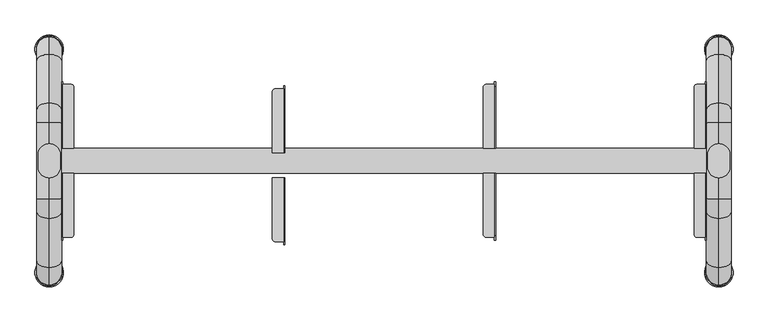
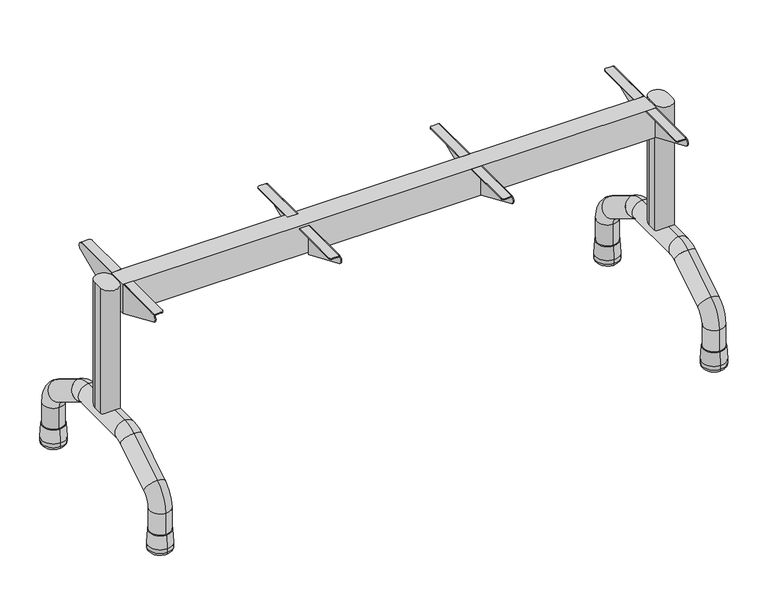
"""IFC4 building model written with IfcOpenShell, lengths in millimetres: furniture geometry, Banco para refeitório : Banco para refeitório 120x30cm cód 40469.5."""

from ifc_helpers import new_model, si_unit, point, frame, frame_2d, origin, place, context, project, spatial, polyline, circle_curve, ellipse_curve, trimmed, segment, composite_curve, outline, extrude, source, transform, mapped, element, save
from ifc_brep_helpers import plane_surface, cylinder_surface, revolved_surface, advanced_brep


def furniture_0498835a(model_context):
    return source(origin(), model_context, "Body", "SolidModel", [
        extrude(outline(composite_curve([segment(trimmed(circle_curve(frame_2d((-540.0, -9.5)), 18.0), [point((-522.0, -9.5))], [point((-558.0, -9.5))], False, "CARTESIAN"), True, "CONTINUOUS"), segment(polyline([(-558.0, -9.5), (-558.0, 9.5)]), True, "CONTINUOUS"), segment(trimmed(circle_curve(frame_2d((-540.0, 9.5)), 18.0), [point((-558.0, 9.5))], [point((-522.0, 9.5))], False, "CARTESIAN"), True, "CONTINUOUS"), segment(polyline([(-522.0, 9.5), (-522.0, -9.5)]), True, "CONTINUOUS")], self_intersect=False)), frame((0.0, 0.0, 175.0), z_axis=(0.0, 0.0, 1.0), x_axis=(1.0, 0.0, 0.0)), (0.0, 0.0, 1.0), 267.0),
        advanced_brep(
        [(-540.0, -160.0, 43.1183008), (-540.0, -200.0, 43.1183008), (-540.0, -160.0, 86.179057), (-540.0, -200.0, 86.179057), (-540.0, -171.6393713, 137.1589568), (-540.0, -150.5464571, 103.1723569), (-540.0, -71.882227, 151.9932999), (-540.0, -92.9751412, 185.9798998), (-540.0, -61.3357699, 195.0), (-540.0, -61.3357699, 155.0), (-540.0, 61.3357699, 155.0), (-540.0, 61.3357699, 195.0), (-540.0, 160.0, 43.1183008), (-540.0, 200.0, 43.1183008), (-540.0, 92.9751412, 185.9798998), (-540.0, 71.882227, 151.9932999), (-540.0, 150.5464571, 103.1723569), (-540.0, 171.6393713, 137.1589568), (-540.0, 200.0, 86.179057), (-540.0, 160.0, 86.179057)],
        [
            (0, 1, circle_curve(frame((-540.0, -180.0, 43.1183008), z_axis=(0.0, 0.0, -1.0), x_axis=(0.0, -1.0, 0.0)), 20.0)),
            (1, 0, circle_curve(frame((-540.0, -180.0, 43.1183008), z_axis=(0.0, 0.0, -1.0), x_axis=(0.0, -1.0, 0.0)), 20.0)),
            (0, 2),
            (2, 3, circle_curve(frame((-540.0, -180.0, 86.179057), z_axis=(0.0, 0.0, -1.0), x_axis=(0.0, -1.0, 0.0)), 20.0)),
            (3, 1),
            (3, 2, circle_curve(frame((-540.0, -180.0, 86.179057), z_axis=(0.0, 0.0, -1.0), x_axis=(0.0, -1.0, 0.0)), 20.0)),
            (4, 5, circle_curve(frame((-540.0, -161.0929142, 120.1656569), z_axis=(0.0, 0.8496649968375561, 0.5273228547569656), x_axis=(0.0, -0.5273228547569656, 0.8496649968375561)), 20.0)),
            (5, 6),
            (6, 7, circle_curve(frame((-540.0, -82.4286841, 168.9865999), z_axis=(0.0, -0.8496649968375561, -0.5273228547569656), x_axis=(0.0, -0.5273228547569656, 0.8496649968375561)), 20.0)),
            (7, 4),
            (5, 4, circle_curve(frame((-540.0, -161.0929142, 120.1656569), z_axis=(0.0, 0.8496649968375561, 0.5273228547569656), x_axis=(0.0, -0.5273228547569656, 0.8496649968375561)), 20.0)),
            (7, 6, circle_curve(frame((-540.0, -82.4286841, 168.9865999), z_axis=(0.0, -0.8496649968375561, -0.5273228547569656), x_axis=(0.0, -0.5273228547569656, 0.8496649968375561)), 20.0)),
            (8, 9, circle_curve(frame((-540.0, -61.3357699, 175.0), z_axis=(0.0, 1.0, 0.0), x_axis=(0.0, 0.0, 1.0)), 20.0)),
            (9, 10),
            (10, 11, circle_curve(frame((-540.0, 61.3357699, 175.0), z_axis=(0.0, -1.0, 0.0), x_axis=(0.0, 0.0, 1.0)), 20.0)),
            (11, 8),
            (9, 8, circle_curve(frame((-540.0, -61.3357699, 175.0), z_axis=(0.0, 1.0, 0.0), x_axis=(0.0, 0.0, 1.0)), 20.0)),
            (11, 10, circle_curve(frame((-540.0, 61.3357699, 175.0), z_axis=(0.0, -1.0, 0.0), x_axis=(0.0, 0.0, 1.0)), 20.0)),
            (12, 13, circle_curve(frame((-540.0, 180.0, 43.1183008), z_axis=(0.0, 0.0, -1.0), x_axis=(0.0, 1.0, 0.0)), 20.0)),
            (13, 12, circle_curve(frame((-540.0, 180.0, 43.1183008), z_axis=(0.0, 0.0, -1.0), x_axis=(0.0, 1.0, 0.0)), 20.0)),
            (4, 3, circle_curve(frame((-540.0, -140.0, 86.179057), z_axis=(1.0, 0.0, 0.0), x_axis=(0.0, -1.0, 0.0)), 60.0)),
            (2, 5, circle_curve(frame((-540.0, -140.0, 86.179057), z_axis=(-1.0, 0.0, 0.0), x_axis=(0.0, -1.0, 0.0)), 20.0)),
            (8, 7, circle_curve(frame((-540.0, -61.3357699, 135.0), z_axis=(1.0, 0.0, 0.0), x_axis=(0.0, -0.5273228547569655, 0.8496649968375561)), 60.0)),
            (6, 9, circle_curve(frame((-540.0, -61.3357699, 135.0), z_axis=(-1.0, 0.0, 0.0), x_axis=(0.0, -0.5273228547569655, 0.8496649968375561)), 20.0)),
            (14, 11, circle_curve(frame((-540.0, 61.3357699, 135.0), z_axis=(1.0, 0.0, 0.0), x_axis=(0.0, 0.0, 1.0)), 60.0)),
            (10, 15, circle_curve(frame((-540.0, 61.3357699, 135.0), z_axis=(-1.0, 0.0, 0.0), x_axis=(0.0, 0.0, 1.0)), 20.0)),
            (15, 14, circle_curve(frame((-540.0, 82.4286841, 168.9865999), z_axis=(0.0, -0.8496649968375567, 0.5273228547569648), x_axis=(0.0, 0.5273228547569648, 0.8496649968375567)), 20.0)),
            (14, 15, circle_curve(frame((-540.0, 82.4286841, 168.9865999), z_axis=(0.0, -0.8496649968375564, 0.5273228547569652), x_axis=(0.0, 0.5273228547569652, 0.8496649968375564)), 20.0)),
            (15, 16),
            (16, 17, circle_curve(frame((-540.0, 161.0929142, 120.1656569), z_axis=(0.0, -0.849664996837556, 0.5273228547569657), x_axis=(0.0, 0.5273228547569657, 0.849664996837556)), 20.0)),
            (17, 14),
            (17, 16, circle_curve(frame((-540.0, 161.0929142, 120.1656569), z_axis=(0.0, -0.849664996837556, 0.5273228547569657), x_axis=(0.0, 0.5273228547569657, 0.849664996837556)), 20.0)),
            (18, 17, circle_curve(frame((-540.0, 140.0, 86.179057), z_axis=(1.0, 0.0, 0.0), x_axis=(0.0, 0.5273228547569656, 0.849664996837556)), 60.0)),
            (16, 19, circle_curve(frame((-540.0, 140.0, 86.179057), z_axis=(-1.0, 0.0, 0.0), x_axis=(0.0, 0.5273228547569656, 0.849664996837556)), 20.0)),
            (19, 18, circle_curve(frame((-540.0, 180.0, 86.179057), z_axis=(0.0, 0.0, 1.0), x_axis=(0.0, 1.0, 0.0)), 20.0)),
            (18, 19, circle_curve(frame((-540.0, 180.0, 86.179057), z_axis=(0.0, 0.0, 1.0), x_axis=(0.0, 1.0, 0.0)), 20.0)),
            (19, 12),
            (13, 18),
        ],
        [
            plane_surface(frame((-1230.0, -180.0, 43.1183008), z_axis=(0.0, 0.0, -1.0), x_axis=(1.0, 0.0, 0.0))),
            cylinder_surface(frame((-540.0, -180.0, 43.1183008), z_axis=(0.0, 0.0, -1.0), x_axis=(0.0, -1.0, 0.0)), 20.0),
            cylinder_surface(frame((-540.0, -161.0929142, 120.1656569), z_axis=(0.0, -0.8496649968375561, -0.5273228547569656), x_axis=(0.0, -0.5273228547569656, 0.8496649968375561)), 20.0),
            cylinder_surface(frame((-540.0, -61.3357699, 175.0), z_axis=(0.0, -1.0, 0.0), x_axis=(0.0, 0.0, 1.0)), 20.0),
            plane_surface(frame((-1230.0, 180.0, 43.1183008), z_axis=(0.0, 0.0, -1.0), x_axis=(1.0, 0.0, 0.0))),
            revolved_surface(trimmed(ellipse_curve(frame((-540.0, -180.0, 86.179057), z_axis=(0.0, 0.0, -1.0), x_axis=(0.0, -1.0, 0.0)), 20.0, 20.0), [point((-540.0, -160.0, 86.179057))], [point((-540.0, -200.0, 86.179057))], True, "CARTESIAN"), (-1230.0, -140.0, 86.179057), (-1.0, 0.0, 0.0)),
            revolved_surface(trimmed(ellipse_curve(frame((-540.0, -180.0, 86.179057), z_axis=(0.0, 0.0, -1.0), x_axis=(0.0, -1.0, 0.0)), 20.0, 20.0), [point((-540.0, -200.0, 86.179057))], [point((-540.0, -160.0, 86.179057))], True, "CARTESIAN"), (-1230.0, -140.0, 86.179057), (-1.0, 0.0, 0.0)),
            revolved_surface(trimmed(ellipse_curve(frame((-540.0, -82.4286841, 168.9865999), z_axis=(0.0, -0.8496649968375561, -0.5273228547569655), x_axis=(0.0, -0.5273228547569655, 0.8496649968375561)), 20.0, 20.0), [point((-540.0, -71.882227, 151.9932999))], [point((-540.0, -92.9751412, 185.9798998))], True, "CARTESIAN"), (-1230.0, -61.3357699, 135.0), (-1.0, 0.0, 0.0)),
            revolved_surface(trimmed(ellipse_curve(frame((-540.0, -82.4286841, 168.9865999), z_axis=(0.0, -0.8496649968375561, -0.5273228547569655), x_axis=(0.0, -0.5273228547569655, 0.8496649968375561)), 20.0, 20.0), [point((-540.0, -92.9751412, 185.9798998))], [point((-540.0, -71.882227, 151.9932999))], True, "CARTESIAN"), (-1230.0, -61.3357699, 135.0), (-1.0, 0.0, 0.0)),
            revolved_surface(trimmed(ellipse_curve(frame((-540.0, 61.3357699, 175.0), z_axis=(0.0, -1.0, 0.0), x_axis=(0.0, 0.0, 1.0)), 20.0, 20.0), [point((-540.0, 61.3357699, 155.0))], [point((-540.0, 61.3357699, 195.0))], True, "CARTESIAN"), (-1230.0, 61.3357699, 135.0), (-1.0, 0.0, 0.0)),
            revolved_surface(trimmed(ellipse_curve(frame((-540.0, 61.3357699, 175.0), z_axis=(0.0, -1.0, 0.0), x_axis=(0.0, 0.0, 1.0)), 20.0, 20.0), [point((-540.0, 61.3357699, 195.0))], [point((-540.0, 61.3357699, 155.0))], True, "CARTESIAN"), (-1230.0, 61.3357699, 135.0), (-1.0, 0.0, 0.0)),
            cylinder_surface(frame((-540.0, 82.4286841, 168.9865999), z_axis=(0.0, -0.849664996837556, 0.5273228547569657), x_axis=(0.0, 0.5273228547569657, 0.849664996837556)), 20.0),
            revolved_surface(trimmed(ellipse_curve(frame((-540.0, 161.0929142, 120.1656569), z_axis=(0.0, -0.8496649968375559, 0.5273228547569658), x_axis=(0.0, 0.5273228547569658, 0.8496649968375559)), 20.0, 20.0), [point((-540.0, 150.5464571, 103.1723569))], [point((-540.0, 171.6393713, 137.1589568))], True, "CARTESIAN"), (-1230.0, 140.0, 86.179057), (-1.0, 0.0, 0.0)),
            revolved_surface(trimmed(ellipse_curve(frame((-540.0, 161.0929142, 120.1656569), z_axis=(0.0, -0.8496649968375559, 0.5273228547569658), x_axis=(0.0, 0.5273228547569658, 0.8496649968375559)), 20.0, 20.0), [point((-540.0, 171.6393713, 137.1589568))], [point((-540.0, 150.5464571, 103.1723569))], True, "CARTESIAN"), (-1230.0, 140.0, 86.179057), (-1.0, 0.0, 0.0)),
            cylinder_surface(frame((-540.0, 180.0, 86.179057), z_axis=(0.0, 0.0, 1.0), x_axis=(0.0, 1.0, 0.0)), 20.0),
        ],
        [
            (0, [[1, 2]]),
            (1, [[-1, 3, 4, 5]]),
            (1, [[-2, -5, 6, -3]]),
            (2, [[7, 8, 9, 10]]),
            (2, [[11, -10, 12, -8]]),
            (3, [[13, 14, 15, 16]]),
            (3, [[17, -16, 18, -14]]),
            (4, [[19, 20]]),
            (5, [[21, -4, 22, -7]]),
            (6, [[-22, -6, -21, -11]]),
            (7, [[23, -9, 24, -13]]),
            (8, [[-24, -12, -23, -17]]),
            (9, [[25, -15, 26, 27]]),
            (10, [[-26, -18, -25, 28]]),
            (11, [[-27, 29, 30, 31]]),
            (11, [[-28, -31, 32, -29]]),
            (12, [[33, -30, 34, 35]]),
            (13, [[-34, -32, -33, 36]]),
            (14, [[-35, 37, -20, 38]]),
            (14, [[-36, -38, -19, -37]]),
        ],
    ),
        extrude(outline(composite_curve([segment(trimmed(circle_curve(frame_2d((540.0, -9.5)), 18.0), [point((558.0, -9.5))], [point((522.0, -9.5))], False, "CARTESIAN"), True, "CONTINUOUS"), segment(polyline([(522.0, -9.5), (522.0, 9.5)]), True, "CONTINUOUS"), segment(trimmed(circle_curve(frame_2d((540.0, 9.5)), 18.0), [point((522.0, 9.5))], [point((558.0, 9.5))], False, "CARTESIAN"), True, "CONTINUOUS"), segment(polyline([(558.0, 9.5), (558.0, -9.5)]), True, "CONTINUOUS")], self_intersect=False)), frame((0.0, 0.0, 175.0), z_axis=(0.0, 0.0, 1.0), x_axis=(1.0, 0.0, 0.0)), (0.0, 0.0, 1.0), 267.0),
        advanced_brep(
        [(540.0, -160.0, 43.1183008), (540.0, -200.0, 43.1183008), (540.0, -160.0, 86.179057), (540.0, -200.0, 86.179057), (540.0, -171.6393713, 137.1589568), (540.0, -150.5464571, 103.1723569), (540.0, -71.882227, 151.9932999), (540.0, -92.9751412, 185.9798998), (540.0, -61.3357699, 195.0), (540.0, -61.3357699, 155.0), (540.0, 61.3357699, 155.0), (540.0, 61.3357699, 195.0), (540.0, 160.0, 43.1183008), (540.0, 200.0, 43.1183008), (540.0, 92.9751412, 185.9798998), (540.0, 71.882227, 151.9932999), (540.0, 150.5464571, 103.1723569), (540.0, 171.6393713, 137.1589568), (540.0, 200.0, 86.179057), (540.0, 160.0, 86.179057)],
        [
            (0, 1, circle_curve(frame((540.0, -180.0, 43.1183008), z_axis=(0.0, 0.0, -1.0), x_axis=(0.0, -1.0, 0.0)), 20.0)),
            (1, 0, circle_curve(frame((540.0, -180.0, 43.1183008), z_axis=(0.0, 0.0, -1.0), x_axis=(0.0, -1.0, 0.0)), 20.0)),
            (0, 2),
            (2, 3, circle_curve(frame((540.0, -180.0, 86.179057), z_axis=(0.0, 0.0, -1.0), x_axis=(0.0, -1.0, 0.0)), 20.0)),
            (3, 1),
            (3, 2, circle_curve(frame((540.0, -180.0, 86.179057), z_axis=(0.0, 0.0, -1.0), x_axis=(0.0, -1.0, 0.0)), 20.0)),
            (4, 5, circle_curve(frame((540.0, -161.0929142, 120.1656569), z_axis=(0.0, 0.8496649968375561, 0.5273228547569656), x_axis=(0.0, -0.5273228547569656, 0.8496649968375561)), 20.0)),
            (5, 6),
            (6, 7, circle_curve(frame((540.0, -82.4286841, 168.9865999), z_axis=(0.0, -0.8496649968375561, -0.5273228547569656), x_axis=(0.0, -0.5273228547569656, 0.8496649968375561)), 20.0)),
            (7, 4),
            (5, 4, circle_curve(frame((540.0, -161.0929142, 120.1656569), z_axis=(0.0, 0.8496649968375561, 0.5273228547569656), x_axis=(0.0, -0.5273228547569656, 0.8496649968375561)), 20.0)),
            (7, 6, circle_curve(frame((540.0, -82.4286841, 168.9865999), z_axis=(0.0, -0.8496649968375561, -0.5273228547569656), x_axis=(0.0, -0.5273228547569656, 0.8496649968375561)), 20.0)),
            (8, 9, circle_curve(frame((540.0, -61.3357699, 175.0), z_axis=(0.0, 1.0, 0.0), x_axis=(0.0, 0.0, 1.0)), 20.0)),
            (9, 10),
            (10, 11, circle_curve(frame((540.0, 61.3357699, 175.0), z_axis=(0.0, -1.0, 0.0), x_axis=(0.0, 0.0, 1.0)), 20.0)),
            (11, 8),
            (9, 8, circle_curve(frame((540.0, -61.3357699, 175.0), z_axis=(0.0, 1.0, 0.0), x_axis=(0.0, 0.0, 1.0)), 20.0)),
            (11, 10, circle_curve(frame((540.0, 61.3357699, 175.0), z_axis=(0.0, -1.0, 0.0), x_axis=(0.0, 0.0, 1.0)), 20.0)),
            (12, 13, circle_curve(frame((540.0, 180.0, 43.1183008), z_axis=(0.0, 0.0, -1.0), x_axis=(0.0, 1.0, 0.0)), 20.0)),
            (13, 12, circle_curve(frame((540.0, 180.0, 43.1183008), z_axis=(0.0, 0.0, -1.0), x_axis=(0.0, 1.0, 0.0)), 20.0)),
            (4, 3, circle_curve(frame((540.0, -140.0, 86.179057), z_axis=(1.0, 0.0, 0.0), x_axis=(0.0, -1.0, 0.0)), 60.0)),
            (2, 5, circle_curve(frame((540.0, -140.0, 86.179057), z_axis=(-1.0, 0.0, 0.0), x_axis=(0.0, -1.0, 0.0)), 20.0)),
            (8, 7, circle_curve(frame((540.0, -61.3357699, 135.0), z_axis=(1.0, 0.0, 0.0), x_axis=(0.0, -0.5273228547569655, 0.8496649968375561)), 60.0)),
            (6, 9, circle_curve(frame((540.0, -61.3357699, 135.0), z_axis=(-1.0, 0.0, 0.0), x_axis=(0.0, -0.5273228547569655, 0.8496649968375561)), 20.0)),
            (14, 11, circle_curve(frame((540.0, 61.3357699, 135.0), z_axis=(1.0, 0.0, 0.0), x_axis=(0.0, 0.0, 1.0)), 60.0)),
            (10, 15, circle_curve(frame((540.0, 61.3357699, 135.0), z_axis=(-1.0, 0.0, 0.0), x_axis=(0.0, 0.0, 1.0)), 20.0)),
            (15, 14, circle_curve(frame((540.0, 82.4286841, 168.9865999), z_axis=(0.0, -0.8496649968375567, 0.5273228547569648), x_axis=(0.0, 0.5273228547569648, 0.8496649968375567)), 20.0)),
            (14, 15, circle_curve(frame((540.0, 82.4286841, 168.9865999), z_axis=(0.0, -0.8496649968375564, 0.5273228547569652), x_axis=(0.0, 0.5273228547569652, 0.8496649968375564)), 20.0)),
            (15, 16),
            (16, 17, circle_curve(frame((540.0, 161.0929142, 120.1656569), z_axis=(0.0, -0.849664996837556, 0.5273228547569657), x_axis=(0.0, 0.5273228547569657, 0.849664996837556)), 20.0)),
            (17, 14),
            (17, 16, circle_curve(frame((540.0, 161.0929142, 120.1656569), z_axis=(0.0, -0.849664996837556, 0.5273228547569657), x_axis=(0.0, 0.5273228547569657, 0.849664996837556)), 20.0)),
            (18, 17, circle_curve(frame((540.0, 140.0, 86.179057), z_axis=(1.0, 0.0, 0.0), x_axis=(0.0, 0.5273228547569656, 0.849664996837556)), 60.0)),
            (16, 19, circle_curve(frame((540.0, 140.0, 86.179057), z_axis=(-1.0, 0.0, 0.0), x_axis=(0.0, 0.5273228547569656, 0.849664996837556)), 20.0)),
            (19, 18, circle_curve(frame((540.0, 180.0, 86.179057), z_axis=(0.0, 0.0, 1.0), x_axis=(0.0, 1.0, 0.0)), 20.0)),
            (18, 19, circle_curve(frame((540.0, 180.0, 86.179057), z_axis=(0.0, 0.0, 1.0), x_axis=(0.0, 1.0, 0.0)), 20.0)),
            (19, 12),
            (13, 18),
        ],
        [
            plane_surface(frame((-150.0, -180.0, 43.1183008), z_axis=(0.0, 0.0, -1.0), x_axis=(1.0, 0.0, 0.0))),
            cylinder_surface(frame((540.0, -180.0, 43.1183008), z_axis=(0.0, 0.0, -1.0), x_axis=(0.0, -1.0, 0.0)), 20.0),
            cylinder_surface(frame((540.0, -161.0929142, 120.1656569), z_axis=(0.0, -0.8496649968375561, -0.5273228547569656), x_axis=(0.0, -0.5273228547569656, 0.8496649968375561)), 20.0),
            cylinder_surface(frame((540.0, -61.3357699, 175.0), z_axis=(0.0, -1.0, 0.0), x_axis=(0.0, 0.0, 1.0)), 20.0),
            plane_surface(frame((-150.0, 180.0, 43.1183008), z_axis=(0.0, 0.0, -1.0), x_axis=(1.0, 0.0, 0.0))),
            revolved_surface(trimmed(ellipse_curve(frame((540.0, -180.0, 86.179057), z_axis=(0.0, 0.0, -1.0), x_axis=(0.0, -1.0, 0.0)), 20.0, 20.0), [point((540.0, -160.0, 86.179057))], [point((540.0, -200.0, 86.179057))], True, "CARTESIAN"), (-150.0, -140.0, 86.179057), (-1.0, 0.0, 0.0)),
            revolved_surface(trimmed(ellipse_curve(frame((540.0, -180.0, 86.179057), z_axis=(0.0, 0.0, -1.0), x_axis=(0.0, -1.0, 0.0)), 20.0, 20.0), [point((540.0, -200.0, 86.179057))], [point((540.0, -160.0, 86.179057))], True, "CARTESIAN"), (-150.0, -140.0, 86.179057), (-1.0, 0.0, 0.0)),
            revolved_surface(trimmed(ellipse_curve(frame((540.0, -82.4286841, 168.9865999), z_axis=(0.0, -0.8496649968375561, -0.5273228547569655), x_axis=(0.0, -0.5273228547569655, 0.8496649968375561)), 20.0, 20.0), [point((540.0, -71.882227, 151.9932999))], [point((540.0, -92.9751412, 185.9798998))], True, "CARTESIAN"), (-150.0, -61.3357699, 135.0), (-1.0, 0.0, 0.0)),
            revolved_surface(trimmed(ellipse_curve(frame((540.0, -82.4286841, 168.9865999), z_axis=(0.0, -0.8496649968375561, -0.5273228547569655), x_axis=(0.0, -0.5273228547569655, 0.8496649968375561)), 20.0, 20.0), [point((540.0, -92.9751412, 185.9798998))], [point((540.0, -71.882227, 151.9932999))], True, "CARTESIAN"), (-150.0, -61.3357699, 135.0), (-1.0, 0.0, 0.0)),
            revolved_surface(trimmed(ellipse_curve(frame((540.0, 61.3357699, 175.0), z_axis=(0.0, -1.0, 0.0), x_axis=(0.0, 0.0, 1.0)), 20.0, 20.0), [point((540.0, 61.3357699, 155.0))], [point((540.0, 61.3357699, 195.0))], True, "CARTESIAN"), (-150.0, 61.3357699, 135.0), (-1.0, 0.0, 0.0)),
            revolved_surface(trimmed(ellipse_curve(frame((540.0, 61.3357699, 175.0), z_axis=(0.0, -1.0, 0.0), x_axis=(0.0, 0.0, 1.0)), 20.0, 20.0), [point((540.0, 61.3357699, 195.0))], [point((540.0, 61.3357699, 155.0))], True, "CARTESIAN"), (-150.0, 61.3357699, 135.0), (-1.0, 0.0, 0.0)),
            cylinder_surface(frame((540.0, 82.4286841, 168.9865999), z_axis=(0.0, -0.849664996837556, 0.5273228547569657), x_axis=(0.0, 0.5273228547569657, 0.849664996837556)), 20.0),
            revolved_surface(trimmed(ellipse_curve(frame((540.0, 161.0929142, 120.1656569), z_axis=(0.0, -0.8496649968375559, 0.5273228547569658), x_axis=(0.0, 0.5273228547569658, 0.8496649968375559)), 20.0, 20.0), [point((540.0, 150.5464571, 103.1723569))], [point((540.0, 171.6393713, 137.1589568))], True, "CARTESIAN"), (-150.0, 140.0, 86.179057), (-1.0, 0.0, 0.0)),
            revolved_surface(trimmed(ellipse_curve(frame((540.0, 161.0929142, 120.1656569), z_axis=(0.0, -0.8496649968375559, 0.5273228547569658), x_axis=(0.0, 0.5273228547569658, 0.8496649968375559)), 20.0, 20.0), [point((540.0, 171.6393713, 137.1589568))], [point((540.0, 150.5464571, 103.1723569))], True, "CARTESIAN"), (-150.0, 140.0, 86.179057), (-1.0, 0.0, 0.0)),
            cylinder_surface(frame((540.0, 180.0, 86.179057), z_axis=(0.0, 0.0, 1.0), x_axis=(0.0, 1.0, 0.0)), 20.0),
        ],
        [
            (0, [[1, 2]]),
            (1, [[-1, 3, 4, 5]]),
            (1, [[-2, -5, 6, -3]]),
            (2, [[7, 8, 9, 10]]),
            (2, [[11, -10, 12, -8]]),
            (3, [[13, 14, 15, 16]]),
            (3, [[17, -16, 18, -14]]),
            (4, [[19, 20]]),
            (5, [[21, -4, 22, -7]]),
            (6, [[-22, -6, -21, -11]]),
            (7, [[23, -9, 24, -13]]),
            (8, [[-24, -12, -23, -17]]),
            (9, [[25, -15, 26, 27]]),
            (10, [[-26, -18, -25, 28]]),
            (11, [[-27, 29, 30, 31]]),
            (11, [[-28, -31, 32, -29]]),
            (12, [[33, -30, 34, 35]]),
            (13, [[-34, -32, -33, 36]]),
            (14, [[-35, 37, -20, 38]]),
            (14, [[-36, -38, -19, -37]]),
        ],
    ),
        advanced_brep(
        [(-540.0, 200.5839249, 42.9792915), (-540.0, 201.212521, 42.3931162), (-540.0, 158.787479, 42.3931162), (-540.0, 159.4160751, 42.9792915), (-540.0, 203.125, 15.0433923), (-540.0, 156.875, 15.0433923), (-540.0, 203.125, 7.2213749), (-540.0, 156.875, 7.2213749), (-540.0, 196.0093092, 0.1056841), (-540.0, 163.9906908, 0.1056841), (-540.0, 180.0, 0.1056841), (-540.0, 180.0, 42.9792915)],
        [
            (0, 1, circle_curve(frame((-540.0, 200.5839249, 42.3491605), z_axis=(-1.0, 0.0, 0.0), x_axis=(0.0, -1.0, 0.0)), 0.630131)),
            (1, 2, circle_curve(frame((-540.0, 180.0, 42.3931162), z_axis=(0.0, 0.0, 1.0), x_axis=(0.0, -1.0, 0.0)), 21.212521)),
            (2, 3, circle_curve(frame((-540.0, 159.4160751, 42.3491605), z_axis=(-1.0, 0.0, 0.0), x_axis=(0.0, 1.0, 0.0)), 0.630131)),
            (3, 0, circle_curve(frame((-540.0, 180.0, 42.9792915), z_axis=(0.0, 0.0, -1.0), x_axis=(0.0, -1.0, 0.0)), 20.5839249)),
            (2, 1, circle_curve(frame((-540.0, 180.0, 42.3931162), z_axis=(0.0, 0.0, 1.0), x_axis=(0.0, -1.0, 0.0)), 21.212521)),
            (0, 3, circle_curve(frame((-540.0, 180.0, 42.9792915), z_axis=(0.0, 0.0, -1.0), x_axis=(0.0, -1.0, 0.0)), 20.5839249)),
            (1, 4),
            (4, 5, circle_curve(frame((-540.0, 180.0, 15.0433923), z_axis=(0.0, 0.0, 1.0), x_axis=(0.0, -1.0, 0.0)), 23.125)),
            (5, 2),
            (5, 4, circle_curve(frame((-540.0, 180.0, 15.0433923), z_axis=(0.0, 0.0, 1.0), x_axis=(0.0, -1.0, 0.0)), 23.125)),
            (4, 6),
            (6, 7, circle_curve(frame((-540.0, 180.0, 7.2213749), z_axis=(0.0, 0.0, 1.0), x_axis=(0.0, -1.0, 0.0)), 23.125)),
            (7, 5),
            (7, 6, circle_curve(frame((-540.0, 180.0, 7.2213749), z_axis=(0.0, 0.0, 1.0), x_axis=(0.0, -1.0, 0.0)), 23.125)),
            (6, 8, circle_curve(frame((-540.0, 196.0093092, 7.2213749), z_axis=(-1.0, 0.0, 0.0), x_axis=(0.0, -1.0, 0.0)), 7.1156908)),
            (8, 9, circle_curve(frame((-540.0, 180.0, 0.1056841), z_axis=(0.0, 0.0, 1.0), x_axis=(0.0, -1.0, 0.0)), 16.0093092)),
            (9, 7, circle_curve(frame((-540.0, 163.9906908, 7.2213749), z_axis=(-1.0, 0.0, 0.0), x_axis=(0.0, 1.0, 0.0)), 7.1156908)),
            (9, 8, circle_curve(frame((-540.0, 180.0, 0.1056841), z_axis=(0.0, 0.0, 1.0), x_axis=(0.0, -1.0, 0.0)), 16.0093092)),
            (8, 10),
            (10, 9),
            (11, 0),
            (3, 11),
        ],
        [
            revolved_surface(trimmed(ellipse_curve(frame((-540.0, 159.4160751, 42.3491605), z_axis=(-1.0, 0.0, 0.0), x_axis=(0.0, 1.0, 0.0)), 0.630131, 0.630131), [point((-540.0, 158.787479, 42.3931162))], [point((-540.0, 159.4160751, 42.9792915))], True, "CARTESIAN"), (-540.0, 180.0, 0.1056841), (0.0, 0.0, 1.0)),
            revolved_surface(polyline([(-540.0, 156.875, 15.0433923), (-540.0, 158.787479, 42.3931162)]), (-540.0, 180.0, 0.1056841), (0.0, 0.0, 1.0)),
            cylinder_surface(frame((-540.0, 180.0, 0.1056841), z_axis=(0.0, 0.0, 1.0), x_axis=(0.0, -1.0, 0.0)), 23.125),
            revolved_surface(trimmed(ellipse_curve(frame((-540.0, 163.9906908, 7.2213749), z_axis=(-1.0, 0.0, 0.0), x_axis=(0.0, 1.0, 0.0)), 7.1156908, 7.1156908), [point((-540.0, 163.9906908, 0.1056841))], [point((-540.0, 156.875, 7.2213749))], True, "CARTESIAN"), (-540.0, 180.0, 0.1056841), (0.0, 0.0, 1.0)),
            plane_surface(frame((-540.0, 180.0, 0.1056841), z_axis=(0.0, 0.0, -1.0), x_axis=(0.0, -1.0, 0.0))),
            plane_surface(frame((-540.0, 180.0, 42.9792915), z_axis=(0.0, 0.0, 1.0), x_axis=(0.0, -1.0, 0.0))),
        ],
        [
            (0, [[1, 2, 3, 4]]),
            (0, [[-3, 5, -1, 6]]),
            (1, [[7, 8, 9, -2]]),
            (1, [[-9, 10, -7, -5]]),
            (2, [[11, 12, 13, -8]]),
            (2, [[-13, 14, -11, -10]]),
            (3, [[15, 16, 17, -12]]),
            (3, [[-17, 18, -15, -14]]),
            (4, [[19, 20, -16]]),
            (4, [[-20, -19, -18]]),
            (5, [[21, -4, 22]]),
            (5, [[-22, -6, -21]]),
        ],
    ),
        advanced_brep(
        [(-540.0, -159.4160751, 42.9792915), (-540.0, -158.787479, 42.3931162), (-540.0, -201.212521, 42.3931162), (-540.0, -200.5839249, 42.9792915), (-540.0, -156.875, 15.0433923), (-540.0, -203.125, 15.0433923), (-540.0, -156.875, 7.2213749), (-540.0, -203.125, 7.2213749), (-540.0, -163.9906908, 0.1056841), (-540.0, -196.0093092, 0.1056841), (-540.0, -180.0, 0.1056841), (-540.0, -180.0, 42.9792915)],
        [
            (0, 1, circle_curve(frame((-540.0, -159.4160751, 42.3491605), z_axis=(-1.0, 0.0, 0.0), x_axis=(0.0, -1.0, 0.0)), 0.630131)),
            (1, 2, circle_curve(frame((-540.0, -180.0, 42.3931162), z_axis=(0.0, 0.0, 1.0), x_axis=(0.0, -1.0, 0.0)), 21.212521)),
            (2, 3, circle_curve(frame((-540.0, -200.5839249, 42.3491605), z_axis=(-1.0, 0.0, 0.0), x_axis=(0.0, 1.0, 0.0)), 0.630131)),
            (3, 0, circle_curve(frame((-540.0, -180.0, 42.9792915), z_axis=(0.0, 0.0, -1.0), x_axis=(0.0, -1.0, 0.0)), 20.5839249)),
            (2, 1, circle_curve(frame((-540.0, -180.0, 42.3931162), z_axis=(0.0, 0.0, 1.0), x_axis=(0.0, -1.0, 0.0)), 21.212521)),
            (0, 3, circle_curve(frame((-540.0, -180.0, 42.9792915), z_axis=(0.0, 0.0, -1.0), x_axis=(0.0, -1.0, 0.0)), 20.5839249)),
            (1, 4),
            (4, 5, circle_curve(frame((-540.0, -180.0, 15.0433923), z_axis=(0.0, 0.0, 1.0), x_axis=(0.0, -1.0, 0.0)), 23.125)),
            (5, 2),
            (5, 4, circle_curve(frame((-540.0, -180.0, 15.0433923), z_axis=(0.0, 0.0, 1.0), x_axis=(0.0, -1.0, 0.0)), 23.125)),
            (4, 6),
            (6, 7, circle_curve(frame((-540.0, -180.0, 7.2213749), z_axis=(0.0, 0.0, 1.0), x_axis=(0.0, -1.0, 0.0)), 23.125)),
            (7, 5),
            (7, 6, circle_curve(frame((-540.0, -180.0, 7.2213749), z_axis=(0.0, 0.0, 1.0), x_axis=(0.0, -1.0, 0.0)), 23.125)),
            (6, 8, circle_curve(frame((-540.0, -163.9906908, 7.2213749), z_axis=(-1.0, 0.0, 0.0), x_axis=(0.0, -1.0, 0.0)), 7.1156908)),
            (8, 9, circle_curve(frame((-540.0, -180.0, 0.1056841), z_axis=(0.0, 0.0, 1.0), x_axis=(0.0, -1.0, 0.0)), 16.0093092)),
            (9, 7, circle_curve(frame((-540.0, -196.0093092, 7.2213749), z_axis=(-1.0, 0.0, 0.0), x_axis=(0.0, 1.0, 0.0)), 7.1156908)),
            (9, 8, circle_curve(frame((-540.0, -180.0, 0.1056841), z_axis=(0.0, 0.0, 1.0), x_axis=(0.0, -1.0, 0.0)), 16.0093092)),
            (8, 10),
            (10, 9),
            (11, 0),
            (3, 11),
        ],
        [
            revolved_surface(trimmed(ellipse_curve(frame((-540.0, -200.5839249, 42.3491605), z_axis=(-1.0, 0.0, 0.0), x_axis=(0.0, 1.0, 0.0)), 0.630131, 0.630131), [point((-540.0, -201.212521, 42.3931162))], [point((-540.0, -200.5839249, 42.9792915))], True, "CARTESIAN"), (-540.0, -180.0, 0.1056841), (0.0, 0.0, 1.0)),
            revolved_surface(polyline([(-540.0, -203.125, 15.0433923), (-540.0, -201.212521, 42.3931162)]), (-540.0, -180.0, 0.1056841), (0.0, 0.0, 1.0)),
            cylinder_surface(frame((-540.0, -180.0, 0.1056841), z_axis=(0.0, 0.0, 1.0), x_axis=(0.0, -1.0, 0.0)), 23.125),
            revolved_surface(trimmed(ellipse_curve(frame((-540.0, -196.0093092, 7.2213749), z_axis=(-1.0, 0.0, 0.0), x_axis=(0.0, 1.0, 0.0)), 7.1156908, 7.1156908), [point((-540.0, -196.0093092, 0.1056841))], [point((-540.0, -203.125, 7.2213749))], True, "CARTESIAN"), (-540.0, -180.0, 0.1056841), (0.0, 0.0, 1.0)),
            plane_surface(frame((-540.0, -180.0, 0.1056841), z_axis=(0.0, 0.0, -1.0), x_axis=(0.0, -1.0, 0.0))),
            plane_surface(frame((-540.0, -180.0, 42.9792915), z_axis=(0.0, 0.0, 1.0), x_axis=(0.0, -1.0, 0.0))),
        ],
        [
            (0, [[1, 2, 3, 4]]),
            (0, [[-3, 5, -1, 6]]),
            (1, [[7, 8, 9, -2]]),
            (1, [[-9, 10, -7, -5]]),
            (2, [[11, 12, 13, -8]]),
            (2, [[-13, 14, -11, -10]]),
            (3, [[15, 16, 17, -12]]),
            (3, [[-17, 18, -15, -14]]),
            (4, [[19, 20, -16]]),
            (4, [[-20, -19, -18]]),
            (5, [[21, -4, 22]]),
            (5, [[-22, -6, -21]]),
        ],
    ),
        advanced_brep(
        [(540.0, 200.5839249, 42.9792915), (540.0, 159.4160751, 42.9792915), (540.0, 158.787479, 42.3931162), (540.0, 201.212521, 42.3931162), (540.0, 156.875, 15.0433923), (540.0, 203.125, 15.0433923), (540.0, 156.875, 7.2213749), (540.0, 203.125, 7.2213749), (540.0, 163.9906908, 0.1056841), (540.0, 196.0093092, 0.1056841), (540.0, 180.0, 0.1056841), (540.0, 180.0, 42.9792915)],
        [
            (0, 1, circle_curve(frame((540.0, 180.0, 42.9792915), z_axis=(0.0, 0.0, -1.0), x_axis=(0.0, -1.0, 0.0)), 20.5839249)),
            (1, 2, circle_curve(frame((540.0, 159.4160751, 42.3491605), z_axis=(1.0, 0.0, 0.0), x_axis=(0.0, 1.0, 0.0)), 0.630131)),
            (2, 3, circle_curve(frame((540.0, 180.0, 42.3931162), z_axis=(0.0, 0.0, 1.0), x_axis=(0.0, -1.0, 0.0)), 21.212521)),
            (3, 0, circle_curve(frame((540.0, 200.5839249, 42.3491605), z_axis=(1.0, 0.0, 0.0), x_axis=(0.0, -1.0, 0.0)), 0.630131)),
            (1, 0, circle_curve(frame((540.0, 180.0, 42.9792915), z_axis=(0.0, 0.0, -1.0), x_axis=(0.0, -1.0, 0.0)), 20.5839249)),
            (3, 2, circle_curve(frame((540.0, 180.0, 42.3931162), z_axis=(0.0, 0.0, 1.0), x_axis=(0.0, -1.0, 0.0)), 21.212521)),
            (2, 4),
            (4, 5, circle_curve(frame((540.0, 180.0, 15.0433923), z_axis=(0.0, 0.0, 1.0), x_axis=(0.0, -1.0, 0.0)), 23.125)),
            (5, 3),
            (5, 4, circle_curve(frame((540.0, 180.0, 15.0433923), z_axis=(0.0, 0.0, 1.0), x_axis=(0.0, -1.0, 0.0)), 23.125)),
            (4, 6),
            (6, 7, circle_curve(frame((540.0, 180.0, 7.2213749), z_axis=(0.0, 0.0, 1.0), x_axis=(0.0, -1.0, 0.0)), 23.125)),
            (7, 5),
            (7, 6, circle_curve(frame((540.0, 180.0, 7.2213749), z_axis=(0.0, 0.0, 1.0), x_axis=(0.0, -1.0, 0.0)), 23.125)),
            (6, 8, circle_curve(frame((540.0, 163.9906908, 7.2213749), z_axis=(1.0, 0.0, 0.0), x_axis=(0.0, 1.0, 0.0)), 7.1156908)),
            (8, 9, circle_curve(frame((540.0, 180.0, 0.1056841), z_axis=(0.0, 0.0, 1.0), x_axis=(0.0, -1.0, 0.0)), 16.0093092)),
            (9, 7, circle_curve(frame((540.0, 196.0093092, 7.2213749), z_axis=(1.0, 0.0, 0.0), x_axis=(0.0, -1.0, 0.0)), 7.1156908)),
            (9, 8, circle_curve(frame((540.0, 180.0, 0.1056841), z_axis=(0.0, 0.0, 1.0), x_axis=(0.0, -1.0, 0.0)), 16.0093092)),
            (8, 10),
            (10, 9),
            (11, 1),
            (0, 11),
        ],
        [
            revolved_surface(trimmed(ellipse_curve(frame((540.0, 159.4160751, 42.3491605), z_axis=(-1.0, 0.0, 0.0), x_axis=(0.0, 1.0, 0.0)), 0.630131, 0.630131), [point((540.0, 158.787479, 42.3931162))], [point((540.0, 159.4160751, 42.9792915))], True, "CARTESIAN"), (540.0, 180.0, 0.1056841), (0.0, 0.0, 1.0)),
            revolved_surface(polyline([(540.0, 156.875, 15.0433923), (540.0, 158.787479, 42.3931162)]), (540.0, 180.0, 0.1056841), (0.0, 0.0, 1.0)),
            cylinder_surface(frame((540.0, 180.0, 0.1056841), z_axis=(0.0, 0.0, 1.0), x_axis=(0.0, -1.0, 0.0)), 23.125),
            revolved_surface(trimmed(ellipse_curve(frame((540.0, 163.9906908, 7.2213749), z_axis=(-1.0, 0.0, 0.0), x_axis=(0.0, 1.0, 0.0)), 7.1156908, 7.1156908), [point((540.0, 163.9906908, 0.1056841))], [point((540.0, 156.875, 7.2213749))], True, "CARTESIAN"), (540.0, 180.0, 0.1056841), (0.0, 0.0, 1.0)),
            plane_surface(frame((540.0, 180.0, 0.1056841), z_axis=(0.0, 0.0, -1.0), x_axis=(0.0, -1.0, 0.0))),
            plane_surface(frame((540.0, 180.0, 42.9792915), z_axis=(0.0, 0.0, 1.0), x_axis=(0.0, -1.0, 0.0))),
        ],
        [
            (0, [[1, 2, 3, 4]]),
            (0, [[5, -4, 6, -2]]),
            (1, [[-3, 7, 8, 9]]),
            (1, [[-6, -9, 10, -7]]),
            (2, [[-8, 11, 12, 13]]),
            (2, [[-10, -13, 14, -11]]),
            (3, [[-12, 15, 16, 17]]),
            (3, [[-14, -17, 18, -15]]),
            (4, [[-16, 19, 20]]),
            (4, [[-18, -20, -19]]),
            (5, [[21, -1, 22]]),
            (5, [[-22, -5, -21]]),
        ],
    ),
        advanced_brep(
        [(540.0, -159.4160751, 42.9792915), (540.0, -200.5839249, 42.9792915), (540.0, -201.212521, 42.3931162), (540.0, -158.787479, 42.3931162), (540.0, -203.125, 15.0433923), (540.0, -156.875, 15.0433923), (540.0, -203.125, 7.2213749), (540.0, -156.875, 7.2213749), (540.0, -196.0093092, 0.1056841), (540.0, -163.9906908, 0.1056841), (540.0, -180.0, 0.1056841), (540.0, -180.0, 42.9792915)],
        [
            (0, 1, circle_curve(frame((540.0, -180.0, 42.9792915), z_axis=(0.0, 0.0, -1.0), x_axis=(0.0, -1.0, 0.0)), 20.5839249)),
            (1, 2, circle_curve(frame((540.0, -200.5839249, 42.3491605), z_axis=(1.0, 0.0, 0.0), x_axis=(0.0, 1.0, 0.0)), 0.630131)),
            (2, 3, circle_curve(frame((540.0, -180.0, 42.3931162), z_axis=(0.0, 0.0, 1.0), x_axis=(0.0, -1.0, 0.0)), 21.212521)),
            (3, 0, circle_curve(frame((540.0, -159.4160751, 42.3491605), z_axis=(1.0, 0.0, 0.0), x_axis=(0.0, -1.0, 0.0)), 0.630131)),
            (1, 0, circle_curve(frame((540.0, -180.0, 42.9792915), z_axis=(0.0, 0.0, -1.0), x_axis=(0.0, -1.0, 0.0)), 20.5839249)),
            (3, 2, circle_curve(frame((540.0, -180.0, 42.3931162), z_axis=(0.0, 0.0, 1.0), x_axis=(0.0, -1.0, 0.0)), 21.212521)),
            (2, 4),
            (4, 5, circle_curve(frame((540.0, -180.0, 15.0433923), z_axis=(0.0, 0.0, 1.0), x_axis=(0.0, -1.0, 0.0)), 23.125)),
            (5, 3),
            (5, 4, circle_curve(frame((540.0, -180.0, 15.0433923), z_axis=(0.0, 0.0, 1.0), x_axis=(0.0, -1.0, 0.0)), 23.125)),
            (4, 6),
            (6, 7, circle_curve(frame((540.0, -180.0, 7.2213749), z_axis=(0.0, 0.0, 1.0), x_axis=(0.0, -1.0, 0.0)), 23.125)),
            (7, 5),
            (7, 6, circle_curve(frame((540.0, -180.0, 7.2213749), z_axis=(0.0, 0.0, 1.0), x_axis=(0.0, -1.0, 0.0)), 23.125)),
            (6, 8, circle_curve(frame((540.0, -196.0093092, 7.2213749), z_axis=(1.0, 0.0, 0.0), x_axis=(0.0, 1.0, 0.0)), 7.1156908)),
            (8, 9, circle_curve(frame((540.0, -180.0, 0.1056841), z_axis=(0.0, 0.0, 1.0), x_axis=(0.0, -1.0, 0.0)), 16.0093092)),
            (9, 7, circle_curve(frame((540.0, -163.9906908, 7.2213749), z_axis=(1.0, 0.0, 0.0), x_axis=(0.0, -1.0, 0.0)), 7.1156908)),
            (9, 8, circle_curve(frame((540.0, -180.0, 0.1056841), z_axis=(0.0, 0.0, 1.0), x_axis=(0.0, -1.0, 0.0)), 16.0093092)),
            (8, 10),
            (10, 9),
            (11, 1),
            (0, 11),
        ],
        [
            revolved_surface(trimmed(ellipse_curve(frame((540.0, -200.5839249, 42.3491605), z_axis=(-1.0, 0.0, 0.0), x_axis=(0.0, 1.0, 0.0)), 0.630131, 0.630131), [point((540.0, -201.212521, 42.3931162))], [point((540.0, -200.5839249, 42.9792915))], True, "CARTESIAN"), (540.0, -180.0, 0.1056841), (0.0, 0.0, 1.0)),
            revolved_surface(polyline([(540.0, -203.125, 15.0433923), (540.0, -201.212521, 42.3931162)]), (540.0, -180.0, 0.1056841), (0.0, 0.0, 1.0)),
            cylinder_surface(frame((540.0, -180.0, 0.1056841), z_axis=(0.0, 0.0, 1.0), x_axis=(0.0, -1.0, 0.0)), 23.125),
            revolved_surface(trimmed(ellipse_curve(frame((540.0, -196.0093092, 7.2213749), z_axis=(-1.0, 0.0, 0.0), x_axis=(0.0, 1.0, 0.0)), 7.1156908, 7.1156908), [point((540.0, -196.0093092, 0.1056841))], [point((540.0, -203.125, 7.2213749))], True, "CARTESIAN"), (540.0, -180.0, 0.1056841), (0.0, 0.0, 1.0)),
            plane_surface(frame((540.0, -180.0, 0.1056841), z_axis=(0.0, 0.0, -1.0), x_axis=(0.0, -1.0, 0.0))),
            plane_surface(frame((540.0, -180.0, 42.9792915), z_axis=(0.0, 0.0, 1.0), x_axis=(0.0, -1.0, 0.0))),
        ],
        [
            (0, [[1, 2, 3, 4]]),
            (0, [[5, -4, 6, -2]]),
            (1, [[-3, 7, 8, 9]]),
            (1, [[-6, -9, 10, -7]]),
            (2, [[-8, 11, 12, 13]]),
            (2, [[-10, -13, 14, -11]]),
            (3, [[-12, 15, 16, 17]]),
            (3, [[-14, -17, 18, -15]]),
            (4, [[-16, 19, 20]]),
            (4, [[-18, -20, -19]]),
            (5, [[21, -1, 22]]),
            (5, [[-22, -5, -21]]),
        ],
    ),
        extrude(outline(composite_curve([segment(polyline([(-162.0, -27.0176362), (-162.0, -130.2831504), (-175.0, -130.2831504)]), True, "CONTINUOUS"), segment(trimmed(circle_curve(frame_2d((-175.0, -125.2831504)), 5.0), [point((-175.0, -130.2831504))], [point((-180.0, -125.2831504))], False, "CARTESIAN"), True, "CONTINUOUS"), segment(polyline([(-180.0, -125.2831504), (-180.0, -27.0176362), (-162.0, -27.0176362)]), True, "CONTINUOUS")], self_intersect=False)), frame((0.0, 0.0, 440.0), z_axis=(0.0, 0.0, 1.0), x_axis=(1.0, 0.0, 0.0)), (0.0, 0.0, 1.0), 2.0),
        extrude(outline(composite_curve([segment(polyline([(-162.0, 12.9823638), (-180.0, 12.9823638), (-180.0, 111.247878)]), True, "CONTINUOUS"), segment(trimmed(circle_curve(frame_2d((-175.0, 111.247878)), 5.0), [point((-180.0, 111.247878))], [point((-175.0, 116.247878))], False, "CARTESIAN"), True, "CONTINUOUS"), segment(polyline([(-175.0, 116.247878), (-162.0, 116.247878), (-162.0, 12.9823638)]), True, "CONTINUOUS")], self_intersect=False)), frame((0.0, 0.0, 440.0), z_axis=(0.0, 0.0, 1.0), x_axis=(1.0, 0.0, 0.0)), (0.0, 0.0, 1.0), 2.0),
        extrude(outline(composite_curve([segment(polyline([(178.0, -20.0), (178.0, -123.2655142), (165.0, -123.2655142)]), True, "CONTINUOUS"), segment(trimmed(circle_curve(frame_2d((165.0, -118.2655142)), 5.0), [point((165.0, -123.2655142))], [point((160.0, -118.2655142))], False, "CARTESIAN"), True, "CONTINUOUS"), segment(polyline([(160.0, -118.2655142), (160.0, -20.0), (178.0, -20.0)]), True, "CONTINUOUS")], self_intersect=False)), frame((0.0, 0.0, 440.0), z_axis=(0.0, 0.0, 1.0), x_axis=(1.0, 0.0, 0.0)), (0.0, 0.0, 1.0), 2.0),
        extrude(outline(composite_curve([segment(polyline([(178.0, 20.0), (160.0, 20.0), (160.0, 118.2655142)]), True, "CONTINUOUS"), segment(trimmed(circle_curve(frame_2d((165.0, 118.2655142)), 5.0), [point((160.0, 118.2655142))], [point((165.0, 123.2655142))], False, "CARTESIAN"), True, "CONTINUOUS"), segment(polyline([(165.0, 123.2655142), (178.0, 123.2655142), (178.0, 20.0)]), True, "CONTINUOUS")], self_intersect=False)), frame((0.0, 0.0, 440.0), z_axis=(0.0, 0.0, 1.0), x_axis=(1.0, 0.0, 0.0)), (0.0, 0.0, 1.0), 2.0),
        extrude(outline(composite_curve([segment(polyline([(20.0, 382.0), (20.0, 442.0), (119.863874, 442.0)]), True, "CONTINUOUS"), segment(trimmed(circle_curve(frame_2d((119.863874, 433.9510336)), 8.0489664), [point((119.863874, 442.0))], [point((123.2655142, 426.6561926))], False, "CARTESIAN"), True, "CONTINUOUS"), segment(polyline([(123.2655142, 426.6561926), (20.0, 382.0)]), True, "CONTINUOUS")], self_intersect=False)), frame((178.0, 0.0, 0.0), z_axis=(1.0, 0.0, 0.0), x_axis=(0.0, 1.0, 0.0)), (0.0, 0.0, 1.0), 2.0),
        extrude(outline(composite_curve([segment(polyline([(-20.0, 382.0), (-123.2655142, 426.6561926)]), True, "CONTINUOUS"), segment(trimmed(circle_curve(frame_2d((-119.863874, 433.9510336)), 8.0489664), [point((-123.2655142, 426.6561926))], [point((-119.863874, 442.0))], False, "CARTESIAN"), True, "CONTINUOUS"), segment(polyline([(-119.863874, 442.0), (-20.0, 442.0), (-20.0, 382.0)]), True, "CONTINUOUS")], self_intersect=False)), frame((178.0, 0.0, 0.0), z_axis=(1.0, 0.0, 0.0), x_axis=(0.0, 1.0, 0.0)), (0.0, 0.0, 1.0), 2.0),
        extrude(outline(composite_curve([segment(polyline([(12.9823638, 382.0), (12.9823638, 442.0), (112.8462378, 442.0)]), True, "CONTINUOUS"), segment(trimmed(circle_curve(frame_2d((112.8462378, 433.9510336)), 8.0489664), [point((112.8462378, 442.0))], [point((116.247878, 426.6561926))], False, "CARTESIAN"), True, "CONTINUOUS"), segment(polyline([(116.247878, 426.6561926), (12.9823638, 382.0)]), True, "CONTINUOUS")], self_intersect=False)), frame((-162.0, 0.0, 0.0), z_axis=(1.0, 0.0, 0.0), x_axis=(0.0, 1.0, 0.0)), (0.0, 0.0, 1.0), 2.0),
        extrude(outline(composite_curve([segment(polyline([(-27.0176362, 382.0), (-130.2831504, 426.6561926)]), True, "CONTINUOUS"), segment(trimmed(circle_curve(frame_2d((-126.8815102, 433.9510336)), 8.0489664), [point((-130.2831504, 426.6561926))], [point((-126.8815102, 442.0))], False, "CARTESIAN"), True, "CONTINUOUS"), segment(polyline([(-126.8815102, 442.0), (-27.0176362, 442.0), (-27.0176362, 382.0)]), True, "CONTINUOUS")], self_intersect=False)), frame((-162.0, 0.0, 0.0), z_axis=(1.0, 0.0, 0.0), x_axis=(0.0, 1.0, 0.0)), (0.0, 0.0, 1.0), 2.0),
        extrude(outline(composite_curve([segment(polyline([(518.0, -20.0), (518.0, -123.2655142), (505.0, -123.2655142)]), True, "CONTINUOUS"), segment(trimmed(circle_curve(frame_2d((505.0, -118.2655142)), 5.0), [point((505.0, -123.2655142))], [point((500.0, -118.2655142))], False, "CARTESIAN"), True, "CONTINUOUS"), segment(polyline([(500.0, -118.2655142), (500.0, -20.0), (518.0, -20.0)]), True, "CONTINUOUS")], self_intersect=False)), frame((0.0, 0.0, 440.0), z_axis=(0.0, 0.0, 1.0), x_axis=(1.0, 0.0, 0.0)), (0.0, 0.0, 1.0), 2.0),
        extrude(outline(composite_curve([segment(polyline([(518.0, 20.0), (500.0, 20.0), (500.0, 118.2655142)]), True, "CONTINUOUS"), segment(trimmed(circle_curve(frame_2d((505.0, 118.2655142)), 5.0), [point((500.0, 118.2655142))], [point((505.0, 123.2655142))], False, "CARTESIAN"), True, "CONTINUOUS"), segment(polyline([(505.0, 123.2655142), (518.0, 123.2655142), (518.0, 20.0)]), True, "CONTINUOUS")], self_intersect=False)), frame((0.0, 0.0, 440.0), z_axis=(0.0, 0.0, 1.0), x_axis=(1.0, 0.0, 0.0)), (0.0, 0.0, 1.0), 2.0),
        extrude(outline(composite_curve([segment(polyline([(-518.0, -20.0), (-500.0, -20.0), (-500.0, -118.2655142)]), True, "CONTINUOUS"), segment(trimmed(circle_curve(frame_2d((-505.0, -118.2655142)), 5.0), [point((-500.0, -118.2655142))], [point((-505.0, -123.2655142))], False, "CARTESIAN"), True, "CONTINUOUS"), segment(polyline([(-505.0, -123.2655142), (-518.0, -123.2655142), (-518.0, -20.0)]), True, "CONTINUOUS")], self_intersect=False)), frame((0.0, 0.0, 440.0), z_axis=(0.0, 0.0, 1.0), x_axis=(1.0, 0.0, 0.0)), (0.0, 0.0, 1.0), 2.0),
        extrude(outline(composite_curve([segment(polyline([(-518.0, 20.0), (-518.0, 123.2655142), (-505.0, 123.2655142)]), True, "CONTINUOUS"), segment(trimmed(circle_curve(frame_2d((-505.0, 118.2655142)), 5.0), [point((-505.0, 123.2655142))], [point((-500.0, 118.2655142))], False, "CARTESIAN"), True, "CONTINUOUS"), segment(polyline([(-500.0, 118.2655142), (-500.0, 20.0), (-518.0, 20.0)]), True, "CONTINUOUS")], self_intersect=False)), frame((0.0, 0.0, 440.0), z_axis=(0.0, 0.0, 1.0), x_axis=(1.0, 0.0, 0.0)), (0.0, 0.0, 1.0), 2.0),
        extrude(outline(composite_curve([segment(polyline([(20.0, 382.0), (20.0, 442.0), (119.863874, 442.0)]), True, "CONTINUOUS"), segment(trimmed(circle_curve(frame_2d((119.863874, 433.9510336)), 8.0489664), [point((119.863874, 442.0))], [point((123.2655142, 426.6561926))], False, "CARTESIAN"), True, "CONTINUOUS"), segment(polyline([(123.2655142, 426.6561926), (20.0, 382.0)]), True, "CONTINUOUS")], self_intersect=False)), frame((-520.0, 0.0, 0.0), z_axis=(1.0, 0.0, 0.0), x_axis=(0.0, 1.0, 0.0)), (0.0, 0.0, 1.0), 2.0),
        extrude(outline(composite_curve([segment(polyline([(-20.0, 382.0), (-123.2655142, 426.6561926)]), True, "CONTINUOUS"), segment(trimmed(circle_curve(frame_2d((-119.863874, 433.9510336)), 8.0489664), [point((-123.2655142, 426.6561926))], [point((-119.863874, 442.0))], False, "CARTESIAN"), True, "CONTINUOUS"), segment(polyline([(-119.863874, 442.0), (-20.0, 442.0), (-20.0, 382.0)]), True, "CONTINUOUS")], self_intersect=False)), frame((-520.0, 0.0, 0.0), z_axis=(1.0, 0.0, 0.0), x_axis=(0.0, 1.0, 0.0)), (0.0, 0.0, 1.0), 2.0),
        extrude(outline(composite_curve([segment(polyline([(20.0, 382.0), (20.0, 442.0), (119.863874, 442.0)]), True, "CONTINUOUS"), segment(trimmed(circle_curve(frame_2d((119.863874, 433.9510336)), 8.0489664), [point((119.863874, 442.0))], [point((123.2655142, 426.6561926))], False, "CARTESIAN"), True, "CONTINUOUS"), segment(polyline([(123.2655142, 426.6561926), (20.0, 382.0)]), True, "CONTINUOUS")], self_intersect=False)), frame((518.0, 0.0, 0.0), z_axis=(1.0, 0.0, 0.0), x_axis=(0.0, 1.0, 0.0)), (0.0, 0.0, 1.0), 2.0),
        extrude(outline(composite_curve([segment(polyline([(-20.0, 382.0), (-123.2655142, 426.6561926)]), True, "CONTINUOUS"), segment(trimmed(circle_curve(frame_2d((-119.863874, 433.9510336)), 8.0489664), [point((-123.2655142, 426.6561926))], [point((-119.863874, 442.0))], False, "CARTESIAN"), True, "CONTINUOUS"), segment(polyline([(-119.863874, 442.0), (-20.0, 442.0), (-20.0, 382.0)]), True, "CONTINUOUS")], self_intersect=False)), frame((518.0, 0.0, 0.0), z_axis=(1.0, 0.0, 0.0), x_axis=(0.0, 1.0, 0.0)), (0.0, 0.0, 1.0), 2.0),
        extrude(outline(polyline([(520.0, -20.0), (-520.0, -20.0), (-520.0, 20.0), (520.0, 20.0), (520.0, -20.0)])), frame((0.0, 0.0, 382.0), z_axis=(0.0, 0.0, 1.0), x_axis=(1.0, 0.0, 0.0)), (0.0, 0.0, 1.0), 60.0),
    ])


if __name__ == "__main__":
    model = new_model("IFC4")
    model_context = context("Model", 3, world=origin())
    ifc_project = project(units=[si_unit("LENGTHUNIT", "METRE", prefix="MILLI")], contexts=[model_context])
    site = spatial("IfcSite", under=ifc_project)
    building = spatial("IfcBuilding", under=site)
    placement = place(None, origin())
    furniture_shape = furniture_0498835a(model_context)
    element("IfcFurniture", 1, ObjectType="Banco para refeitório : Banco para refeitório 120x30cm cód 40469.5", at=placement, inside=building, context=model_context, shape_type="MappedRepresentation", body=[
        mapped(furniture_shape, transform((0.0, 0.0, 0.0), x_axis=(1.0, 0.0, 0.0), y_axis=(0.0, 1.0, 0.0), z_axis=(0.0, 0.0, 1.0))),
    ])
    save(model, "model.ifc")
